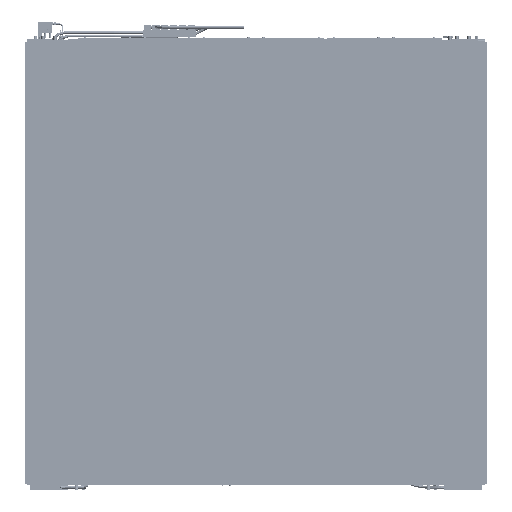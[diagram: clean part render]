
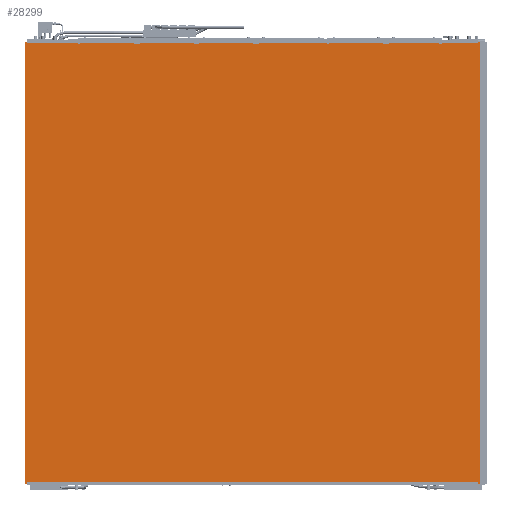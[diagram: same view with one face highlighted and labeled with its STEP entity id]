
A CAD part, front view. The second image highlights one B-rep face of the part: STEP entity #28299.
In plain terms, the highlighted planar face has unit normal (0, -1, 0).
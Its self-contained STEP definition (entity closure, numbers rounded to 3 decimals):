
#28299=ADVANCED_FACE('',(#42721),#36039,.F.);
#36039=PLANE('',#172589);
#42721=FACE_OUTER_BOUND('',#52588,.T.);
#52588=EDGE_LOOP('',(#80898,#80899,#80900,#80901));
#80898=ORIENTED_EDGE('',*,*,#127605,.T.);
#80899=ORIENTED_EDGE('',*,*,#127606,.T.);
#80900=ORIENTED_EDGE('',*,*,#127607,.T.);
#80901=ORIENTED_EDGE('',*,*,#127608,.T.);
#109155=VERTEX_POINT('',#261181);
#109156=VERTEX_POINT('',#261182);
#109157=VERTEX_POINT('',#261184);
#109158=VERTEX_POINT('',#261186);
#127605=EDGE_CURVE('',#109155,#109156,#145103,.T.);
#127606=EDGE_CURVE('',#109156,#109157,#145104,.T.);
#127607=EDGE_CURVE('',#109157,#109158,#145105,.T.);
#127608=EDGE_CURVE('',#109158,#109155,#145106,.T.);
#145103=LINE('',#261180,#158628);
#145104=LINE('',#261183,#158629);
#145105=LINE('',#261185,#158630);
#145106=LINE('',#261187,#158631);
#158628=VECTOR('',#201553,1.);
#158629=VECTOR('',#201554,1.);
#158630=VECTOR('',#201555,1.);
#158631=VECTOR('',#201556,1.);
#172589=AXIS2_PLACEMENT_3D('',#261188,#201557,#201558);
#201553=DIRECTION('',(1.,0.,0.));
#201554=DIRECTION('',(0.,0.,1.));
#201555=DIRECTION('',(-1.,0.,0.));
#201556=DIRECTION('',(0.,0.,-1.));
#201557=DIRECTION('',(0.,1.,0.));
#201558=DIRECTION('',(-1.,0.,0.));
#261180=CARTESIAN_POINT('',(-1387.7,-7364.25,1428.518));
#261181=CARTESIAN_POINT('',(-2672.7,-7364.25,1428.518));
#261182=CARTESIAN_POINT('',(-102.7,-7364.25,1428.518));
#261183=CARTESIAN_POINT('',(-102.7,-7364.25,2676.518));
#261184=CARTESIAN_POINT('',(-102.7,-7364.25,3924.518));
#261185=CARTESIAN_POINT('',(-1387.7,-7364.25,3924.518));
#261186=CARTESIAN_POINT('',(-2672.7,-7364.25,3924.518));
#261187=CARTESIAN_POINT('',(-2672.7,-7364.25,2676.518));
#261188=CARTESIAN_POINT('',(-102.7,-7364.25,1428.518));
